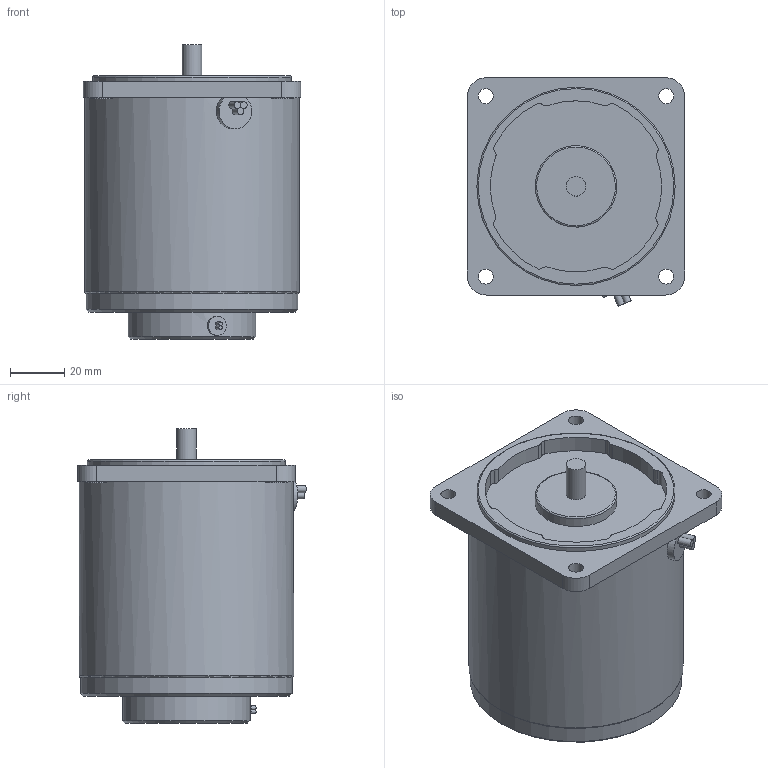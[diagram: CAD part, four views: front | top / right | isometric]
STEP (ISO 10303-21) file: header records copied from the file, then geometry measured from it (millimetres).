
FILE_DESCRIPTION((''),'2;1');
FILE_NAME('E:\2공장-도면\3D\표준형 3D(민규)\step file\SU,SP\K8IG25Nㅁ-Sㅁ.stp','2014-11-14T14:02:04',('AHN'),(''),'Autodesk Inventor 2012','Autodesk Inventor 2012','');
FILE_SCHEMA(('CONFIG_CONTROL_DESIGN'));
Length unit declared in the file: millimetre
Products named in the file (1): K8IG25Nㅁ-Sㅁ
Bounding box: 80 x 84.13 x 108.5 mm (x, y, z)
Volume: 433402.1 mm3; surface area: 38211.5 mm2
Topology: 1 solids, 1 shells, 82 faces, 188 edges, 116 vertices
Faces by surface type: cylinder 52, plane 25, torus 3, cone 2
Full cylindrical faces by diameter (mm): 1.4 x2, 5.5 x4, 7 x1, 7.21 x1, 8 x4, 30 x1, 47 x1, 73 x1, 78 x1, 79 x1
Entity records: 2298 total; most frequent: DIRECTION 433, CARTESIAN_POINT 420, ORIENTED_EDGE 326, AXIS2_PLACEMENT_3D 189, EDGE_CURVE 163, EDGE_LOOP 122, VERTEX_POINT 111, CIRCLE 106
